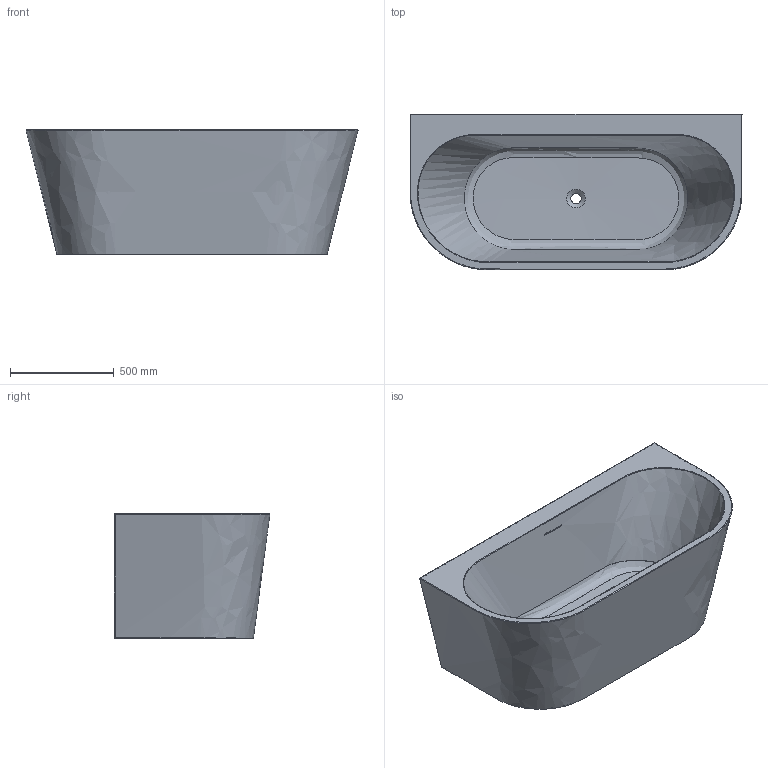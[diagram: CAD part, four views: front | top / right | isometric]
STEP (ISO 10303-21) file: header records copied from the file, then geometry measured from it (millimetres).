
FILE_DESCRIPTION(/* description */ (''),/* implementation_level */ '2;1');
FILE_NAME(/* name */ 'XA-191A-1600.stp',/* time_stamp */ '2022-10-15T11:09:11+08:00',/* author */ (''),/* organization */ (''),/* preprocessor_version */ 'ST-DEVELOPER v16',/* originating_system */ 'SIEMENS PLM Software NX 10.0',/* authorisation */ '');
FILE_SCHEMA (('CONFIG_CONTROL_DESIGN'));
Length unit declared in the file: millimetre
Products named in the file (1): XA-191A-1600
Bounding box: 1598.32 x 749.56 x 600 mm (x, y, z)
Volume: 22914539.2 mm3; surface area: 9432314.9 mm2
Topology: 1 solids, 1 shells, 28 faces, 67 edges, 44 vertices
Faces by surface type: plane 10, bspline 9, cylinder 5, cone 4
Full cylindrical faces by diameter (mm): 50 x1, 60 x1
Entity records: 6436 total; most frequent: CARTESIAN_POINT 5857, ORIENTED_EDGE 98, DIRECTION 71, EDGE_CURVE 49, EDGE_LOOP 46, VERTEX_POINT 37, FACE_BOUND 34, ADVANCED_FACE 28
